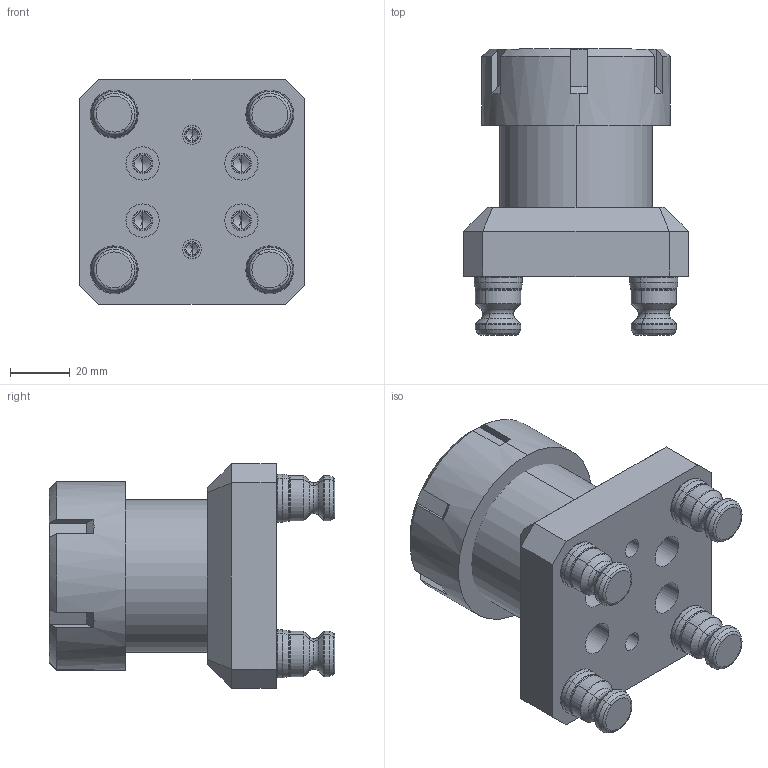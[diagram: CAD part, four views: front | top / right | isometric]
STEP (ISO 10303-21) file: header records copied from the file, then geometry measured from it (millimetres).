
FILE_DESCRIPTION (( 'STEP AP214' ), '1' );
FILE_NAME ('D_R52-CER40.STEP', '2020-03-13T17:49:51', ( '' ), ( '' ), 'SwSTEP 2.0', 'SolidWorks 2018', '' );
FILE_SCHEMA (( 'AUTOMOTIVE_DESIGN' ));
Length unit declared in the file: millimetre
Products named in the file (7): D_CER40-1_CER40; D_R52-CER40-1; D_CER40-2; D_R52-CER40; D_CER40; D_PS16F_HARD TURN; D_CER40-3_1"
Assembly tree (9 placements, depth 3):
  D_R52-CER40
    D_R52-CER40-1
    D_CER40
      D_CER40-1_CER40
      D_CER40-2
      D_CER40-3_1"
    D_PS16F_HARD TURN  x4
Bounding box: 75.01 x 95.44 x 75.01 mm (x, y, z)
Volume: 228582.1 mm3; surface area: 75157.9 mm2
Topology: 8 solids, 8 shells, 480 faces, 1154 edges, 705 vertices
Faces by surface type: plane 176, cylinder 121, torus 96, cone 85, bspline 2
Entity records: 12527 total; most frequent: CARTESIAN_POINT 3715, DIRECTION 1783, ORIENTED_EDGE 1780, EDGE_CURVE 890, AXIS2_PLACEMENT_3D 695, VERTEX_POINT 573, VECTOR 393, EDGE_LOOP 393
